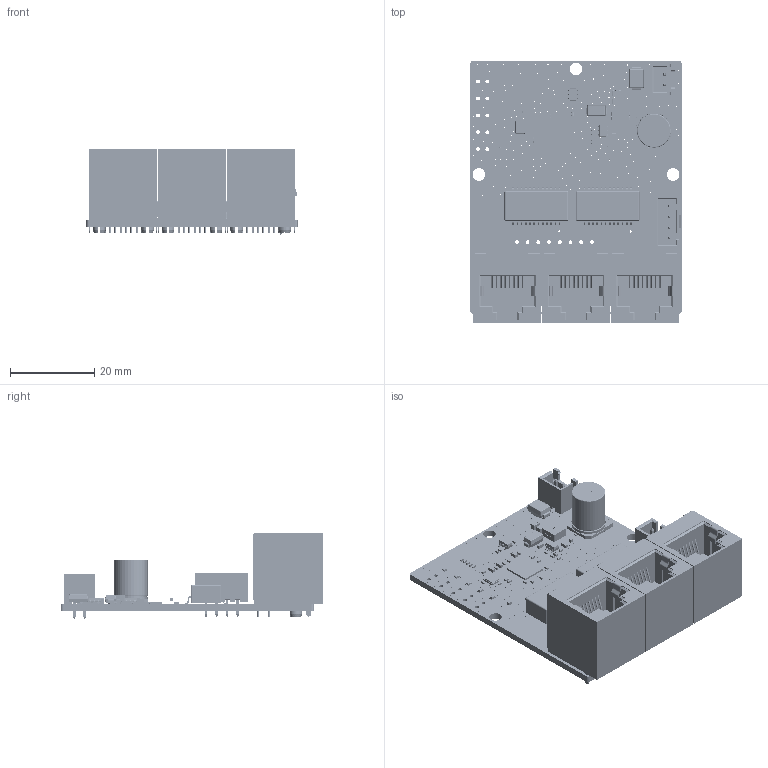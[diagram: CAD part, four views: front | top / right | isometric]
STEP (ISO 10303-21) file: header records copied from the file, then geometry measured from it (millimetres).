
FILE_DESCRIPTION(('Designed by EasyEDA Pro'),'2;1');
FILE_NAME('Open CASCADE Shape Model','2026-07-22T11:59:17',('Author'),( 'Open CASCADE'),'Open CASCADE STEP processor 7.8','Open CASCADE 7.8' ,'Unknown');
FILE_SCHEMA(('AUTOMOTIVE_DESIGN { 1 0 10303 214 1 1 1 1 }'));
Length unit declared in the file: millimetre
Products named in the file (556): EasyEDA PCB Model~zJ2c; Board~zJ2c; TopCopper~zJ2c; BottomCopper~zJ2c; TopSilkscreen~zJ2c; BottomSilkscreen~zJ2c; TopFpcStiffener~zJ2c; BottomFpcStiffener~zJ2c; C33~1206~C1206_L3.2-W1.6-H1.3_1~zJ2c; 1206~C1206_L3.2-W1.6-H1.3_1~zJ2c; C18~1206~C1206_L3.2-W1.6-H1.3_1~zJ2c; C0402~C0402~oLrc; C15~C0402~C0402~vbRG; C2~C0402~C0402~ck3g; C7~C0402~C0402~0etw; C36~C0402~C0402~mXa9; C40~C0402~C0402~2DwY; C42~C0402~C0402~TjZF; C43~C0402~C0402~Amlp; C45~C0402~C0402~sAnD; C46~C0402~C0402~PijK; C47~C0402~C0402~5PXO; C50~C0402~C0402~TqCQ; C51~C0402~C0402~STFZ; C52~C0402~C0402~t09w; C53~C0402~C0402~pKoz; C55~C0402~C0402~qDlu; C60~C0402~C0402~XPFw; C14~C0402~C0402~exTU; C12~C0402~C0402~EmfH; C1~C0402~C0402~Hn5T; C9~C0402~C0402~TRVo; C30~C0402~C0402~PK0z; R0402~R0402_L1.0-W0.5-H0.5_NTC~ReAQ; R2~R0402~R0402_L1.0-W0.5-H0.5_NTC~SRIq; R4~R0402~R0402_L1.0-W0.5-H0.5_NTC~LXqP; R47~R0402~R0402_L1.0-W0.5-H0.5_NTC~ECoW; R6~R0402~R0402_L1.0-W0.5-H0.5_NTC~g6A8; R67~R0402~R0402_L1.0-W0.5-H0.5_NTC~bjPE; R9~R0402~R0402_L1.0-W0.5-H0.5_NTC~IsaQ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
Assembly tree (600 placements, depth 3):
  EasyEDA PCB Model~zJ2c
    Board~zJ2c
    TopCopper~zJ2c
      TopCopper~zJ2c
      TopCopper~zJ2c
      TopCopper~zJ2c
      TopCopper~zJ2c
      TopCopper~zJ2c
      TopCopper~zJ2c
      TopCopper~zJ2c
      TopCopper~zJ2c
      TopCopper~zJ2c
      TopCopper~zJ2c
      TopCopper~zJ2c
      TopCopper~zJ2c
      TopCopper~zJ2c
      TopCopper~zJ2c
      TopCopper~zJ2c
      TopCopper~zJ2c
      TopCopper~zJ2c
      TopCopper~zJ2c
      TopCopper~zJ2c
      TopCopper~zJ2c
      TopCopper~zJ2c
      TopCopper~zJ2c
      TopCopper~zJ2c
      TopCopper~zJ2c
      TopCopper~zJ2c
      TopCopper~zJ2c
      TopCopper~zJ2c
      TopCopper~zJ2c
      TopCopper~zJ2c
      TopCopper~zJ2c
      TopCopper~zJ2c
      TopCopper~zJ2c
      TopCopper~zJ2c
      TopCopper~zJ2c
      TopCopper~zJ2c
      TopCopper~zJ2c
      TopCopper~zJ2c
      TopCopper~zJ2c
      TopCopper~zJ2c
      TopCopper~zJ2c
      TopCopper~zJ2c
      TopCopper~zJ2c
      TopCopper~zJ2c
      TopCopper~zJ2c
      TopCopper~zJ2c
      TopCopper~zJ2c
      TopCopper~zJ2c
      TopCopper~zJ2c
      TopCopper~zJ2c
      TopCopper~zJ2c
      TopCopper~zJ2c
      TopCopper~zJ2c
      TopCopper~zJ2c
      TopCopper~zJ2c
      TopCopper~zJ2c
      TopCopper~zJ2c
      TopCopper~zJ2c
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Bounding box: 49.97 x 62.24 x 20.2 mm (x, y, z)
Volume: 16325.2 mm3; surface area: 20380.8 mm2
Topology: 285 solids, 754 shells, 23932 faces, 97255 edges, 75502 vertices
Faces by surface type: plane 13629, bspline 6594, cylinder 3282, sphere 354, torus 39, cone 34
Full cylindrical faces by diameter (mm): 0.8 x4, 7.5 x1, 8 x2
Entity records: 633723 total; most frequent: CARTESIAN_POINT 148395, ORIENTED_EDGE 75545, DIRECTION 71450, EDGE_CURVE 54960, VERTEX_POINT 48048, LINE 43894, VECTOR 43894, AXIS2_PLACEMENT_3D 13778
